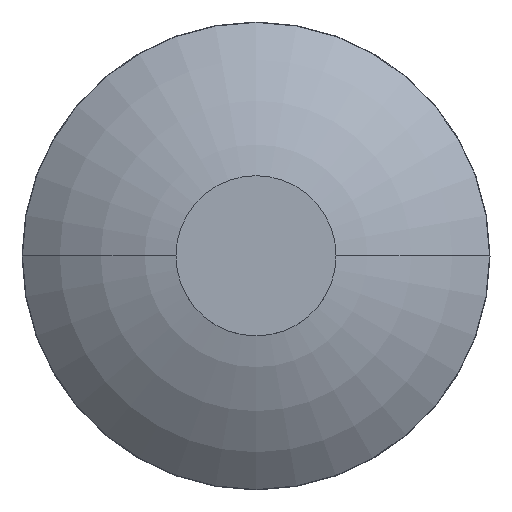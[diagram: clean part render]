
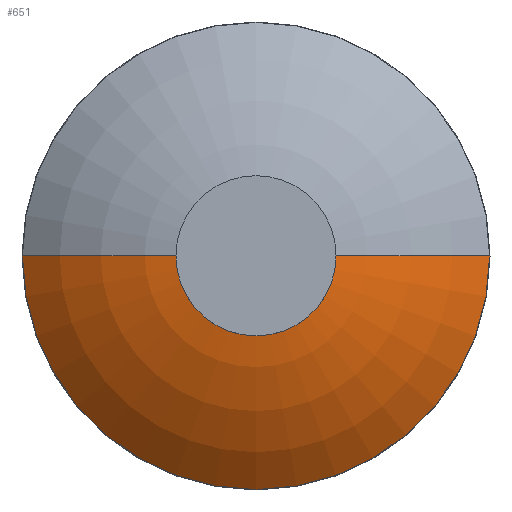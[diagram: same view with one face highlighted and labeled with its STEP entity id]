
A CAD part, top view. The second image highlights one B-rep face of the part: STEP entity #651.
In plain terms, the highlighted toroidal (fillet/blend) face has major radius 6.748 mm and minor radius 250 mm.
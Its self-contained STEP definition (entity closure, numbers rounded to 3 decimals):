
#523 = EDGE_CURVE ( 'NONE', #2181, #1448, #5369, .T. ) ;
#570 = ORIENTED_EDGE ( 'NONE', *, *, #523, .F. ) ;
#612 = EDGE_CURVE ( 'NONE', #6819, #1448, #6466, .T. ) ;
#651 = ADVANCED_FACE ( 'NONE', ( #5531 ), #2759, .T. ) ;
#716 = EDGE_CURVE ( 'NONE', #2181, #5748, #3352, .T. ) ;
#928 = DIRECTION ( 'NONE',  ( -1., 0., 0. ) ) ;
#931 = AXIS2_PLACEMENT_3D ( 'NONE', #4726, #3670, #4701 ) ;
#1365 = EDGE_CURVE ( 'NONE', #5748, #6819, #2584, .T. ) ;
#1448 = VERTEX_POINT ( 'NONE', #3892 ) ;
#1543 = DIRECTION ( 'NONE',  ( 1., 0., 0. ) ) ;
#1570 = DIRECTION ( 'NONE',  ( 0., 0., -1. ) ) ;
#1595 = AXIS2_PLACEMENT_3D ( 'NONE', #2550, #5809, #928 ) ;
#1616 = DIRECTION ( 'NONE',  ( 0., 0., 1. ) ) ;
#2173 = CARTESIAN_POINT ( 'NONE',  ( 0., 0., -65. ) ) ;
#2178 = AXIS2_PLACEMENT_3D ( 'NONE', #5367, #1616, #3794 ) ;
#2181 = VERTEX_POINT ( 'NONE', #5262 ) ;
#2426 = AXIS2_PLACEMENT_3D ( 'NONE', #3840, #1570, #1543 ) ;
#2550 = CARTESIAN_POINT ( 'NONE',  ( -6.748, 0., -249.909 ) ) ;
#2584 = CIRCLE ( 'NONE', #931, 250. ) ;
#2759 = TOROIDAL_SURFACE ( 'NONE', #2178, 6.748, 250. ) ;
#3352 = CIRCLE ( 'NONE', #4822, 175. ) ;
#3475 = ORIENTED_EDGE ( 'NONE', *, *, #1365, .T. ) ;
#3670 = DIRECTION ( 'NONE',  ( 0., -1., 0. ) ) ;
#3768 = ORIENTED_EDGE ( 'NONE', *, *, #716, .T. ) ;
#3794 = DIRECTION ( 'NONE',  ( 1., 0., 0. ) ) ;
#3840 = CARTESIAN_POINT ( 'NONE',  ( 0., 0., 0. ) ) ;
#3892 = CARTESIAN_POINT ( 'NONE',  ( -13.496, 0., 0. ) ) ;
#4645 = EDGE_LOOP ( 'NONE', ( #570, #3768, #3475, #5006 ) ) ;
#4701 = DIRECTION ( 'NONE',  ( 0., 0., -1. ) ) ;
#4726 = CARTESIAN_POINT ( 'NONE',  ( 6.748, 0., -249.909 ) ) ;
#4822 = AXIS2_PLACEMENT_3D ( 'NONE', #2173, #5860, #6505 ) ;
#5006 = ORIENTED_EDGE ( 'NONE', *, *, #612, .T. ) ;
#5075 = CARTESIAN_POINT ( 'NONE',  ( 175., 0., -65. ) ) ;
#5262 = CARTESIAN_POINT ( 'NONE',  ( -175., 0., -65. ) ) ;
#5367 = CARTESIAN_POINT ( 'NONE',  ( 0., 0., -249.909 ) ) ;
#5369 = CIRCLE ( 'NONE', #1595, 250. ) ;
#5520 = CARTESIAN_POINT ( 'NONE',  ( 13.496, 0., 0. ) ) ;
#5531 = FACE_OUTER_BOUND ( 'NONE', #4645, .T. ) ;
#5748 = VERTEX_POINT ( 'NONE', #5075 ) ;
#5809 = DIRECTION ( 'NONE',  ( 0., 1., 0. ) ) ;
#5860 = DIRECTION ( 'NONE',  ( 0., 0., 1. ) ) ;
#6466 = CIRCLE ( 'NONE', #2426, 13.496 ) ;
#6505 = DIRECTION ( 'NONE',  ( 1., 0., 0. ) ) ;
#6819 = VERTEX_POINT ( 'NONE', #5520 ) ;
